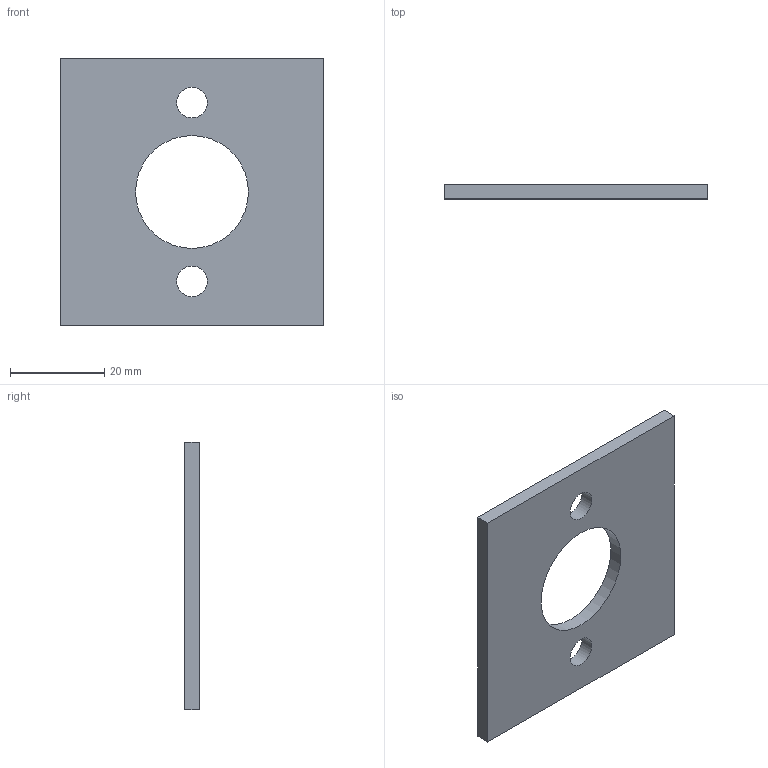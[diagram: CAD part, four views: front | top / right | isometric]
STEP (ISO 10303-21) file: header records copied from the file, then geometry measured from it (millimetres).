
FILE_DESCRIPTION(('Open CASCADE Model'),'2;1');
FILE_NAME('Open CASCADE Shape Model','2026-11-20T18:13:43',('Author'),( 'Open CASCADE'),'Open CASCADE STEP processor 8.0','Open CASCADE 8.0' ,'Unknown');
FILE_SCHEMA(('AUTOMOTIVE_DESIGN { 1 0 10303 214 1 1 1 1 }'));
Length unit declared in the file: millimetre
Products named in the file (1): Open CASCADE STEP translator 8.0 1
Bounding box: 56 x 3 x 57 mm (x, y, z)
Volume: 8019.7 mm3; surface area: 6373.2 mm2
Topology: 1 solids, 1 shells, 9 faces, 21 edges, 14 vertices
Faces by surface type: plane 6, cylinder 3
Full cylindrical faces by diameter (mm): 6.5 x2, 24 x1
Entity records: 556 total; most frequent: DIRECTION 89, CARTESIAN_POINT 87, LINE 51, VECTOR 51, ORIENTED_EDGE 42, PCURVE 42, DEFINITIONAL_REPRESENTATION 42, EDGE_CURVE 21
